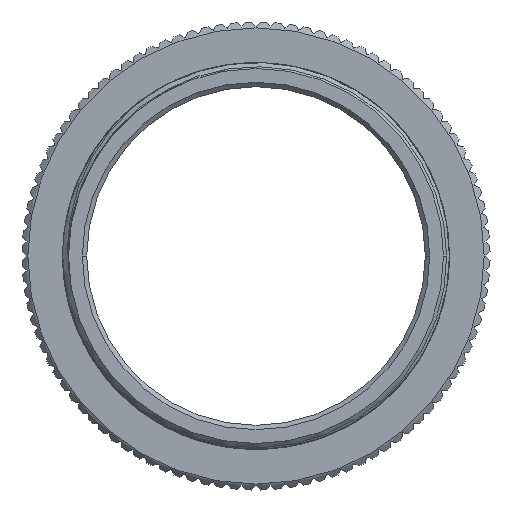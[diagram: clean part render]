
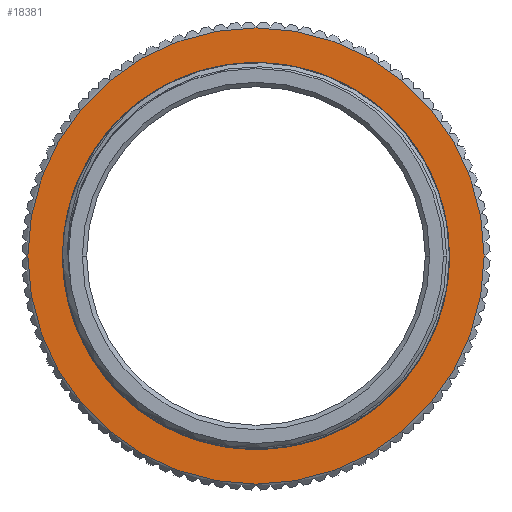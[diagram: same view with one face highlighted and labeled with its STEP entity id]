
A CAD part, front view. The second image highlights one B-rep face of the part: STEP entity #18381.
In plain terms, the highlighted planar face has unit normal (0, -1, 0).
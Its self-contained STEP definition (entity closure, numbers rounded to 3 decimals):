
#9571=CARTESIAN_POINT('',(0.,0.,0.));
#9572=DIRECTION('',(0.,-1.,0.));
#9573=DIRECTION('',(1.,0.,0.));
#9574=AXIS2_PLACEMENT_3D('',#9571,#9572,#9573);
#9576=CARTESIAN_POINT('',(0.,0.,0.));
#9577=DIRECTION('',(0.,-1.,0.));
#9578=DIRECTION('',(-1.,0.,0.));
#9579=AXIS2_PLACEMENT_3D('',#9576,#9577,#9578);
#9589=CARTESIAN_POINT('',(0.,0.,0.));
#9590=DIRECTION('',(0.,-1.,0.));
#9591=DIRECTION('',(0.,0.,-1.));
#9592=AXIS2_PLACEMENT_3D('',#9589,#9590,#9591);
#9594=CARTESIAN_POINT('',(0.,0.,0.));
#9595=DIRECTION('',(0.,1.,0.));
#9596=DIRECTION('',(0.,0.,-1.));
#9597=AXIS2_PLACEMENT_3D('',#9594,#9595,#9596);
#12051=CARTESIAN_POINT('',(15.5,0.,0.));
#12052=CARTESIAN_POINT('',(-15.5,0.,0.));
#12053=VERTEX_POINT('',#12051);
#12054=VERTEX_POINT('',#12052);
#12075=CARTESIAN_POINT('',(0.,0.,-12.75));
#12077=VERTEX_POINT('',#12075);
#12083=CARTESIAN_POINT('',(0.,0.,12.75));
#12085=VERTEX_POINT('',#12083);
#18366=CARTESIAN_POINT('',(0.,0.,0.));
#18367=DIRECTION('',(0.,1.,0.));
#18368=DIRECTION('',(1.,0.,0.));
#18369=AXIS2_PLACEMENT_3D('',#18366,#18367,#18368);
#18370=PLANE('',#18369);
#18371=ORIENTED_EDGE('',*,*,#18113,.F.);
#18372=ORIENTED_EDGE('',*,*,#17341,.F.);
#18373=EDGE_LOOP('',(#18371,#18372));
#18374=FACE_OUTER_BOUND('',#18373,.F.);
#18376=ORIENTED_EDGE('',*,*,#18375,.T.);
#18378=ORIENTED_EDGE('',*,*,#18377,.F.);
#18379=EDGE_LOOP('',(#18376,#18378));
#18380=FACE_BOUND('',#18379,.F.);
#18381=ADVANCED_FACE('',(#18374,#18380),#18370,.F.);
#9575=CIRCLE('',#9574,15.5);
#9580=CIRCLE('',#9579,15.5);
#9593=CIRCLE('',#9592,12.75);
#9598=CIRCLE('',#9597,12.75);
#17341=EDGE_CURVE('',#12054,#12053,#9580,.T.);
#18113=EDGE_CURVE('',#12053,#12054,#9575,.T.);
#18375=EDGE_CURVE('',#12077,#12085,#9593,.T.);
#18377=EDGE_CURVE('',#12077,#12085,#9598,.T.);
